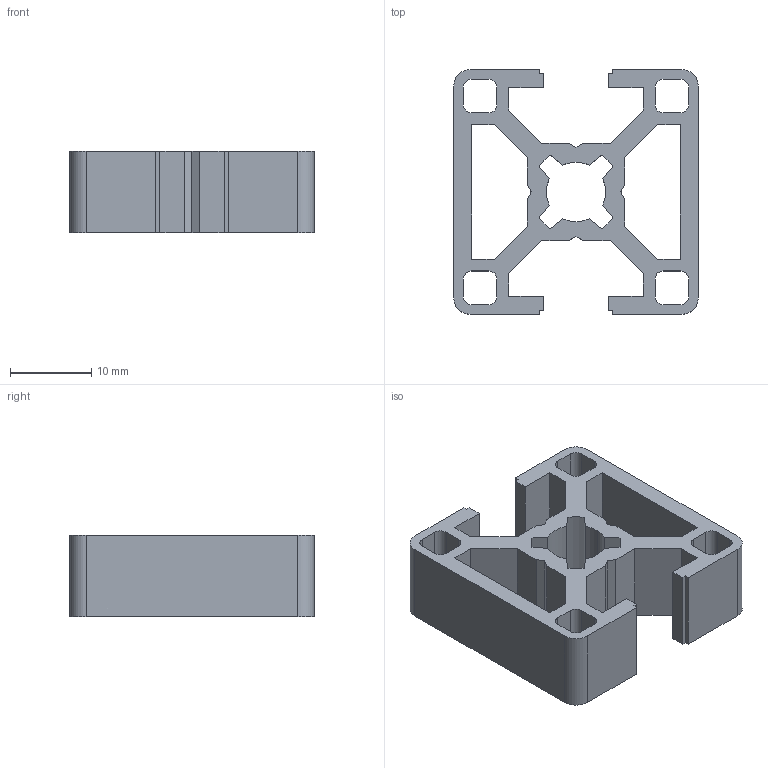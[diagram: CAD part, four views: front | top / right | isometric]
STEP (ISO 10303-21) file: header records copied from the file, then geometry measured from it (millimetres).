
FILE_DESCRIPTION (( 'STEP AP214' ), '1' );
FILE_NAME ('201 015 - 30x30-8 2N180.STEP', '2012-02-22T06:16:55', ( 'ASK' ), ( 'ASK' ), 'SwSTEP 2.0', 'SolidWorks 2010', '' );
FILE_SCHEMA (( 'AUTOMOTIVE_DESIGN' ));
Length unit declared in the file: millimetre
Products named in the file (1): 201 015 - 30x30-8 2N180
Bounding box: 30 x 30 x 10 mm (x, y, z)
Volume: 3518.6 mm3; surface area: 4289.3 mm2
Topology: 1 solids, 1 shells, 111 faces, 327 edges, 218 vertices
Faces by surface type: plane 82, cylinder 29
Entity records: 3741 total; most frequent: CARTESIAN_POINT 657, ORIENTED_EDGE 654, DIRECTION 609, EDGE_CURVE 327, LINE 269, VECTOR 269, VERTEX_POINT 218, AXIS2_PLACEMENT_3D 170
